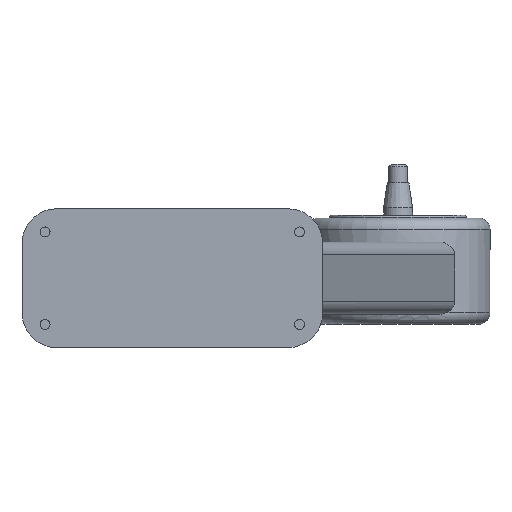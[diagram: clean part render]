
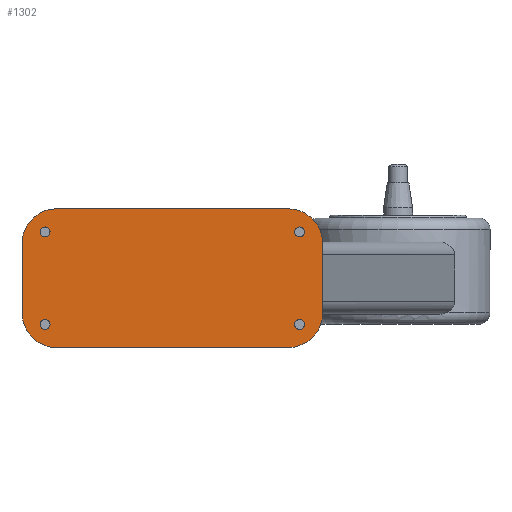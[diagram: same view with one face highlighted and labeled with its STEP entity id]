
A CAD part, front view. The second image highlights one B-rep face of the part: STEP entity #1302.
In plain terms, the highlighted planar face has unit normal (0, -1, 0).
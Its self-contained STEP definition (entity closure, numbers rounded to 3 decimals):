
#1 = VERTEX_POINT ( 'NONE', #1060 ) ;
#57 = FACE_BOUND ( 'NONE', #323, .T. ) ;
#75 = ORIENTED_EDGE ( 'NONE', *, *, #1016, .T. ) ;
#98 = ORIENTED_EDGE ( 'NONE', *, *, #1629, .F. ) ;
#115 = AXIS2_PLACEMENT_3D ( 'NONE', #1037, #1030, #1023 ) ;
#126 = AXIS2_PLACEMENT_3D ( 'NONE', #2079, #2059, #2056 ) ;
#144 = DIRECTION ( 'NONE',  ( 0., -1., 0. ) ) ;
#146 = ORIENTED_EDGE ( 'NONE', *, *, #711, .T. ) ;
#150 = CARTESIAN_POINT ( 'NONE',  ( -105.008, 0., -40. ) ) ;
#154 = CIRCLE ( 'NONE', #403, 4.25 ) ;
#162 = DIRECTION ( 'NONE',  ( 1., 0., 0. ) ) ;
#165 = DIRECTION ( 'NONE',  ( 0., -1., 0. ) ) ;
#169 = CARTESIAN_POINT ( 'NONE',  ( -100.758, 0., -40. ) ) ;
#173 = DIRECTION ( 'NONE',  ( 1., 0., 0. ) ) ;
#177 = DIRECTION ( 'NONE',  ( 1., 0., 0. ) ) ;
#210 = DIRECTION ( 'NONE',  ( 0., -1., 0. ) ) ;
#212 = AXIS2_PLACEMENT_3D ( 'NONE', #1193, #1183, #1170 ) ;
#219 = CARTESIAN_POINT ( 'NONE',  ( -105.008, 0., 40. ) ) ;
#236 = ORIENTED_EDGE ( 'NONE', *, *, #1001, .F. ) ;
#238 = VERTEX_POINT ( 'NONE', #599 ) ;
#247 = DIRECTION ( 'NONE',  ( -1., 0., 0. ) ) ;
#272 = PLANE ( 'NONE',  #1687 ) ;
#282 = ORIENTED_EDGE ( 'NONE', *, *, #673, .T. ) ;
#300 = CIRCLE ( 'NONE', #115, 4.25 ) ;
#308 = EDGE_CURVE ( 'NONE', #1204, #523, #717, .T. ) ;
#309 = DIRECTION ( 'NONE',  ( 0., 1., 0. ) ) ;
#323 = EDGE_LOOP ( 'NONE', ( #1778, #2130 ) ) ;
#331 = DIRECTION ( 'NONE',  ( -1., 0., 0. ) ) ;
#336 = DIRECTION ( 'NONE',  ( 0., -1., 0. ) ) ;
#340 = CARTESIAN_POINT ( 'NONE',  ( 104.992, 0., 30. ) ) ;
#370 = VERTEX_POINT ( 'NONE', #806 ) ;
#378 = VERTEX_POINT ( 'NONE', #962 ) ;
#385 = CARTESIAN_POINT ( 'NONE',  ( 134.992, 0., 30. ) ) ;
#396 = CARTESIAN_POINT ( 'NONE',  ( -125.008, 0., 60. ) ) ;
#403 = AXIS2_PLACEMENT_3D ( 'NONE', #1477, #1474, #1466 ) ;
#415 = EDGE_LOOP ( 'NONE', ( #75, #282, #2015, #146, #1932, #1994, #1229, #690 ) ) ;
#432 = VERTEX_POINT ( 'NONE', #788 ) ;
#434 = EDGE_CURVE ( 'NONE', #1079, #687, #1411, .T. ) ;
#446 = CIRCLE ( 'NONE', #212, 30. ) ;
#450 = CIRCLE ( 'NONE', #1560, 4.25 ) ;
#508 = CARTESIAN_POINT ( 'NONE',  ( -109.258, 0., 40. ) ) ;
#510 = FACE_BOUND ( 'NONE', #1409, .T. ) ;
#523 = VERTEX_POINT ( 'NONE', #1257 ) ;
#534 = CIRCLE ( 'NONE', #2223, 4.25 ) ;
#565 = CARTESIAN_POINT ( 'NONE',  ( -125.008, 0., 30. ) ) ;
#599 = CARTESIAN_POINT ( 'NONE',  ( -100.758, 0., 40. ) ) ;
#613 = CIRCLE ( 'NONE', #1363, 4.25 ) ;
#615 = EDGE_CURVE ( 'NONE', #1960, #1008, #2047, .T. ) ;
#673 = EDGE_CURVE ( 'NONE', #432, #1, #886, .T. ) ;
#687 = VERTEX_POINT ( 'NONE', #1652 ) ;
#690 = ORIENTED_EDGE ( 'NONE', *, *, #1861, .T. ) ;
#697 = CIRCLE ( 'NONE', #2095, 30. ) ;
#711 = EDGE_CURVE ( 'NONE', #2021, #687, #2113, .T. ) ;
#713 = CARTESIAN_POINT ( 'NONE',  ( 110.742, 0., -40. ) ) ;
#717 = CIRCLE ( 'NONE', #1671, 4.25 ) ;
#738 = CARTESIAN_POINT ( 'NONE',  ( 114.992, 0., -40. ) ) ;
#742 = EDGE_CURVE ( 'NONE', #1925, #820, #1091, .T. ) ;
#785 = CARTESIAN_POINT ( 'NONE',  ( -125.008, 0., 60. ) ) ;
#786 = DIRECTION ( 'NONE',  ( 0., 0., -1. ) ) ;
#788 = CARTESIAN_POINT ( 'NONE',  ( 104.992, 0., -60. ) ) ;
#806 = CARTESIAN_POINT ( 'NONE',  ( -95.008, 0., -60. ) ) ;
#820 = VERTEX_POINT ( 'NONE', #169 ) ;
#832 = CIRCLE ( 'NONE', #126, 4.25 ) ;
#840 = CARTESIAN_POINT ( 'NONE',  ( 134.992, 0., 60. ) ) ;
#843 = AXIS2_PLACEMENT_3D ( 'NONE', #1457, #1448, #1942 ) ;
#886 = CIRCLE ( 'NONE', #843, 30. ) ;
#915 = VECTOR ( 'NONE', #1397, 1000. ) ;
#962 = CARTESIAN_POINT ( 'NONE',  ( 119.242, 0., 40. ) ) ;
#993 = FACE_BOUND ( 'NONE', #1122, .T. ) ;
#999 = EDGE_CURVE ( 'NONE', #1079, #1960, #697, .T. ) ;
#1001 = EDGE_CURVE ( 'NONE', #523, #1204, #154, .T. ) ;
#1008 = VERTEX_POINT ( 'NONE', #1526 ) ;
#1016 = EDGE_CURVE ( 'NONE', #370, #432, #2057, .T. ) ;
#1021 = CARTESIAN_POINT ( 'NONE',  ( -109.258, 0., -40. ) ) ;
#1023 = DIRECTION ( 'NONE',  ( 1., 0., 0. ) ) ;
#1030 = DIRECTION ( 'NONE',  ( 0., -1., 0. ) ) ;
#1037 = CARTESIAN_POINT ( 'NONE',  ( -105.008, 0., -40. ) ) ;
#1057 = CARTESIAN_POINT ( 'NONE',  ( 110.742, 0., 40. ) ) ;
#1060 = CARTESIAN_POINT ( 'NONE',  ( 134.992, 0., -30. ) ) ;
#1079 = VERTEX_POINT ( 'NONE', #1162 ) ;
#1091 = CIRCLE ( 'NONE', #1919, 4.25 ) ;
#1100 = AXIS2_PLACEMENT_3D ( 'NONE', #340, #336, #331 ) ;
#1122 = EDGE_LOOP ( 'NONE', ( #1764, #98 ) ) ;
#1124 = VECTOR ( 'NONE', #1577, 1000. ) ;
#1162 = CARTESIAN_POINT ( 'NONE',  ( -95.008, 0., 60. ) ) ;
#1163 = EDGE_CURVE ( 'NONE', #2021, #1, #2123, .T. ) ;
#1170 = DIRECTION ( 'NONE',  ( -1., 0., 0. ) ) ;
#1183 = DIRECTION ( 'NONE',  ( 0., -1., 0. ) ) ;
#1193 = CARTESIAN_POINT ( 'NONE',  ( -95.008, 0., -30. ) ) ;
#1204 = VERTEX_POINT ( 'NONE', #713 ) ;
#1229 = ORIENTED_EDGE ( 'NONE', *, *, #615, .T. ) ;
#1250 = CARTESIAN_POINT ( 'NONE',  ( 114.992, 0., 40. ) ) ;
#1257 = CARTESIAN_POINT ( 'NONE',  ( 119.242, 0., -40. ) ) ;
#1302 = ADVANCED_FACE ( 'NONE', ( #2306, #510, #993, #57, #1880 ), #272, .F. ) ;
#1304 = EDGE_CURVE ( 'NONE', #2087, #238, #450, .T. ) ;
#1320 = ORIENTED_EDGE ( 'NONE', *, *, #2195, .F. ) ;
#1363 = AXIS2_PLACEMENT_3D ( 'NONE', #1726, #1723, #1722 ) ;
#1397 = DIRECTION ( 'NONE',  ( 1., 0., 0. ) ) ;
#1409 = EDGE_LOOP ( 'NONE', ( #236, #2162 ) ) ;
#1411 = LINE ( 'NONE', #785, #915 ) ;
#1429 = DIRECTION ( 'NONE',  ( 1., 0., 0. ) ) ;
#1448 = DIRECTION ( 'NONE',  ( 0., -1., 0. ) ) ;
#1455 = CARTESIAN_POINT ( 'NONE',  ( -125.008, 0., -60. ) ) ;
#1457 = CARTESIAN_POINT ( 'NONE',  ( 104.992, 0., -30. ) ) ;
#1466 = DIRECTION ( 'NONE',  ( 1., 0., 0. ) ) ;
#1474 = DIRECTION ( 'NONE',  ( 0., -1., 0. ) ) ;
#1477 = CARTESIAN_POINT ( 'NONE',  ( 114.992, 0., -40. ) ) ;
#1504 = DIRECTION ( 'NONE',  ( -1., 0., 0. ) ) ;
#1516 = DIRECTION ( 'NONE',  ( 0., -1., 0. ) ) ;
#1519 = CARTESIAN_POINT ( 'NONE',  ( -95.008, 0., 30. ) ) ;
#1526 = CARTESIAN_POINT ( 'NONE',  ( -125.008, 0., -30. ) ) ;
#1560 = AXIS2_PLACEMENT_3D ( 'NONE', #219, #210, #173 ) ;
#1577 = DIRECTION ( 'NONE',  ( 0., 0., -1. ) ) ;
#1629 = EDGE_CURVE ( 'NONE', #1891, #378, #832, .T. ) ;
#1640 = DIRECTION ( 'NONE',  ( 1., 0., 0. ) ) ;
#1652 = CARTESIAN_POINT ( 'NONE',  ( 104.992, 0., 60. ) ) ;
#1653 = ORIENTED_EDGE ( 'NONE', *, *, #742, .F. ) ;
#1660 = EDGE_LOOP ( 'NONE', ( #1320, #1653 ) ) ;
#1671 = AXIS2_PLACEMENT_3D ( 'NONE', #738, #2068, #1640 ) ;
#1687 = AXIS2_PLACEMENT_3D ( 'NONE', #396, #309, #247 ) ;
#1691 = VECTOR ( 'NONE', #786, 1000. ) ;
#1722 = DIRECTION ( 'NONE',  ( 1., 0., 0. ) ) ;
#1723 = DIRECTION ( 'NONE',  ( 0., -1., 0. ) ) ;
#1726 = CARTESIAN_POINT ( 'NONE',  ( -105.008, 0., 40. ) ) ;
#1751 = EDGE_CURVE ( 'NONE', #238, #2087, #613, .T. ) ;
#1764 = ORIENTED_EDGE ( 'NONE', *, *, #2052, .F. ) ;
#1778 = ORIENTED_EDGE ( 'NONE', *, *, #1751, .F. ) ;
#1861 = EDGE_CURVE ( 'NONE', #1008, #370, #446, .T. ) ;
#1880 = FACE_OUTER_BOUND ( 'NONE', #415, .T. ) ;
#1891 = VERTEX_POINT ( 'NONE', #1057 ) ;
#1919 = AXIS2_PLACEMENT_3D ( 'NONE', #150, #144, #177 ) ;
#1925 = VERTEX_POINT ( 'NONE', #1021 ) ;
#1932 = ORIENTED_EDGE ( 'NONE', *, *, #434, .F. ) ;
#1942 = DIRECTION ( 'NONE',  ( -1., 0., 0. ) ) ;
#1960 = VERTEX_POINT ( 'NONE', #565 ) ;
#1994 = ORIENTED_EDGE ( 'NONE', *, *, #999, .T. ) ;
#2003 = VECTOR ( 'NONE', #1429, 1000. ) ;
#2005 = CARTESIAN_POINT ( 'NONE',  ( -125.008, 0., 60. ) ) ;
#2015 = ORIENTED_EDGE ( 'NONE', *, *, #1163, .F. ) ;
#2021 = VERTEX_POINT ( 'NONE', #385 ) ;
#2047 = LINE ( 'NONE', #2005, #1124 ) ;
#2052 = EDGE_CURVE ( 'NONE', #378, #1891, #534, .T. ) ;
#2056 = DIRECTION ( 'NONE',  ( 1., 0., 0. ) ) ;
#2057 = LINE ( 'NONE', #1455, #2003 ) ;
#2059 = DIRECTION ( 'NONE',  ( 0., -1., 0. ) ) ;
#2068 = DIRECTION ( 'NONE',  ( 0., -1., 0. ) ) ;
#2079 = CARTESIAN_POINT ( 'NONE',  ( 114.992, 0., 40. ) ) ;
#2087 = VERTEX_POINT ( 'NONE', #508 ) ;
#2095 = AXIS2_PLACEMENT_3D ( 'NONE', #1519, #1516, #1504 ) ;
#2113 = CIRCLE ( 'NONE', #1100, 30. ) ;
#2123 = LINE ( 'NONE', #840, #1691 ) ;
#2130 = ORIENTED_EDGE ( 'NONE', *, *, #1304, .F. ) ;
#2162 = ORIENTED_EDGE ( 'NONE', *, *, #308, .F. ) ;
#2195 = EDGE_CURVE ( 'NONE', #820, #1925, #300, .T. ) ;
#2223 = AXIS2_PLACEMENT_3D ( 'NONE', #1250, #165, #162 ) ;
#2306 = FACE_BOUND ( 'NONE', #1660, .T. ) ;
